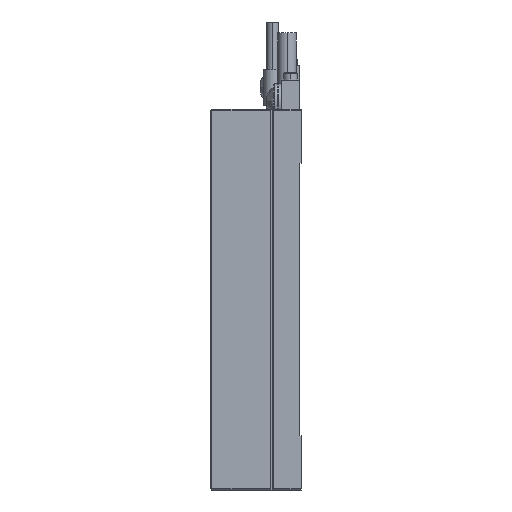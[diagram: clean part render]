
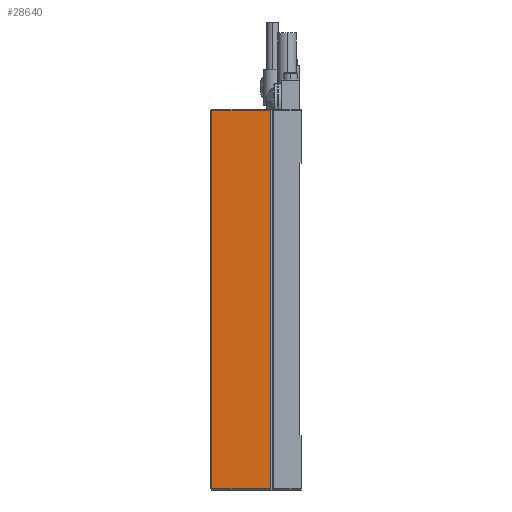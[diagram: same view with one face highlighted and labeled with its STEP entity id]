
A CAD part, left-side view. The second image highlights one B-rep face of the part: STEP entity #28640.
In plain terms, the highlighted planar face has unit normal (-1, 0, 0).
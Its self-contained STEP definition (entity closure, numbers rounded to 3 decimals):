
#24023=DIRECTION('',(0.,0.,-1.));
#24024=VECTOR('',#24023,104.4);
#24025=CARTESIAN_POINT('',(-52.5,8.5,52.2));
#24026=LINE('588',#24025,#24024);
#24432=DIRECTION('',(0.,-1.,0.));
#24433=VECTOR('',#24432,16.2);
#24434=CARTESIAN_POINT('',(-52.5,24.7,-52.2));
#24435=LINE('582',#24434,#24433);
#24439=DIRECTION('',(0.,0.,-1.));
#24440=VECTOR('',#24439,104.4);
#24441=CARTESIAN_POINT('',(-52.5,24.7,52.2));
#24442=LINE('583',#24441,#24440);
#24446=DIRECTION('',(0.,1.,0.));
#24447=VECTOR('',#24446,16.2);
#24448=CARTESIAN_POINT('',(-52.5,8.5,52.2));
#24449=LINE('586',#24448,#24447);
#27666=CARTESIAN_POINT('',(-52.5,8.5,-52.2));
#27668=VERTEX_POINT('',#27666);
#27670=CARTESIAN_POINT('',(-52.5,24.7,-52.2));
#27671=VERTEX_POINT('',#27670);
#27672=CARTESIAN_POINT('',(-52.5,24.7,52.2));
#27673=VERTEX_POINT('',#27672);
#27675=CARTESIAN_POINT('',(-52.5,8.5,52.2));
#27677=VERTEX_POINT('',#27675);
#28629=CARTESIAN_POINT('',(-52.5,25.,-52.5));
#28630=DIRECTION('',(-1.,0.,0.));
#28631=DIRECTION('',(0.,-1.,0.));
#28632=AXIS2_PLACEMENT_3D('',#28629,#28630,#28631);
#28633=PLANE('203',#28632);
#28634=ORIENTED_EDGE('582',*,*,#28413,.F.);
#28635=ORIENTED_EDGE('583',*,*,#28612,.F.);
#28636=ORIENTED_EDGE('586',*,*,#28362,.F.);
#28637=ORIENTED_EDGE('588',*,*,#28385,.T.);
#28638=EDGE_LOOP('203',(#28634,#28635,#28636,#28637));
#28639=FACE_OUTER_BOUND('203',#28638,.F.);
#28362=EDGE_CURVE('586',#27677,#27673,#24449,.T.);
#28385=EDGE_CURVE('588',#27677,#27668,#24026,.T.);
#28413=EDGE_CURVE('582',#27671,#27668,#24435,.T.);
#28612=EDGE_CURVE('583',#27673,#27671,#24442,.T.);
#28640=ADVANCED_FACE('203',(#28639),#28633,.T.);
